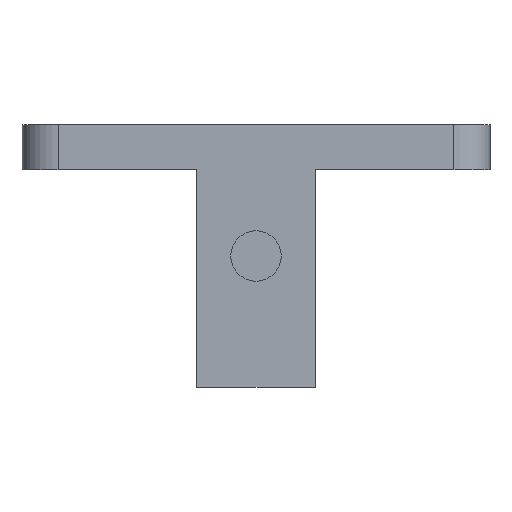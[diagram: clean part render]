
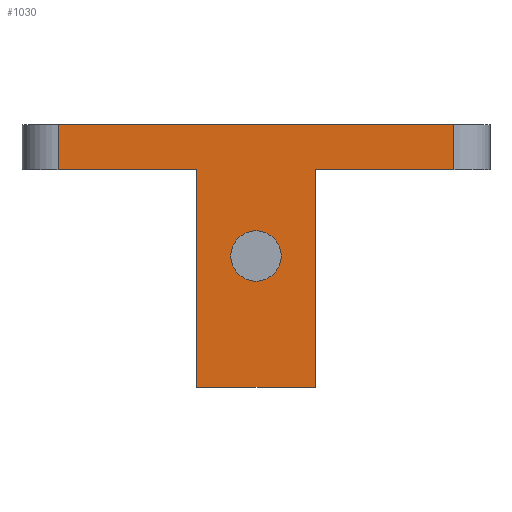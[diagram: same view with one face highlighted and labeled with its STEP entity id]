
A CAD part, front view. The second image highlights one B-rep face of the part: STEP entity #1030.
In plain terms, the highlighted planar face has unit normal (0, -1, 0).
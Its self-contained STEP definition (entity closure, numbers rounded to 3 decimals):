
#27=FACE_BOUND('',#374,.T.);
#70=LINE('',#1503,#198);
#78=LINE('',#1532,#206);
#86=LINE('',#1560,#214);
#95=LINE('',#1581,#223);
#96=LINE('',#1583,#224);
#97=LINE('',#1584,#225);
#98=LINE('',#1585,#226);
#99=LINE('',#1586,#227);
#198=VECTOR('',#1212,10.);
#206=VECTOR('',#1234,10.);
#214=VECTOR('',#1256,10.);
#223=VECTOR('',#1279,10.);
#224=VECTOR('',#1280,10.);
#225=VECTOR('',#1281,10.);
#226=VECTOR('',#1282,10.);
#227=VECTOR('',#1283,1000.);
#315=FACE_OUTER_BOUND('',#373,.T.);
#373=EDGE_LOOP('',(#791,#792,#793,#794,#795,#796,#797,#798));
#374=EDGE_LOOP('',(#799));
#429=CIRCLE('',#1104,1.4);
#462=VERTEX_POINT('',#1500);
#463=VERTEX_POINT('',#1502);
#475=VERTEX_POINT('',#1528);
#477=VERTEX_POINT('',#1531);
#486=VERTEX_POINT('',#1550);
#490=VERTEX_POINT('',#1558);
#495=VERTEX_POINT('',#1580);
#496=VERTEX_POINT('',#1582);
#497=VERTEX_POINT('',#1587);
#570=EDGE_CURVE('',#462,#463,#70,.T.);
#584=EDGE_CURVE('',#477,#475,#78,.T.);
#598=EDGE_CURVE('',#486,#490,#86,.T.);
#609=EDGE_CURVE('',#475,#495,#95,.T.);
#610=EDGE_CURVE('',#496,#495,#96,.T.);
#611=EDGE_CURVE('',#496,#486,#97,.T.);
#612=EDGE_CURVE('',#490,#463,#98,.T.);
#613=EDGE_CURVE('',#462,#477,#99,.T.);
#614=EDGE_CURVE('',#497,#497,#429,.T.);
#791=ORIENTED_EDGE('',*,*,#584,.T.);
#792=ORIENTED_EDGE('',*,*,#609,.T.);
#793=ORIENTED_EDGE('',*,*,#610,.F.);
#794=ORIENTED_EDGE('',*,*,#611,.T.);
#795=ORIENTED_EDGE('',*,*,#598,.T.);
#796=ORIENTED_EDGE('',*,*,#612,.T.);
#797=ORIENTED_EDGE('',*,*,#570,.F.);
#798=ORIENTED_EDGE('',*,*,#613,.T.);
#799=ORIENTED_EDGE('',*,*,#614,.T.);
#983=PLANE('',#1103);
#1030=ADVANCED_FACE('',(#315,#27),#983,.T.);
#1103=AXIS2_PLACEMENT_3D('',#1579,#1277,#1278);
#1104=AXIS2_PLACEMENT_3D('',#1588,#1284,#1285);
#1212=DIRECTION('',(1.,0.,0.));
#1234=DIRECTION('',(1.,0.,0.));
#1256=DIRECTION('',(1.,0.,0.));
#1277=DIRECTION('center_axis',(0.,-1.,0.));
#1278=DIRECTION('ref_axis',(1.,0.,0.));
#1279=DIRECTION('',(0.,0.,-1.));
#1280=DIRECTION('',(-1.,0.,0.));
#1281=DIRECTION('',(0.,0.,1.));
#1282=DIRECTION('',(0.,0.,1.));
#1283=DIRECTION('',(0.,0.,-1.));
#1284=DIRECTION('center_axis',(0.,1.,0.));
#1285=DIRECTION('ref_axis',(-1.,0.,0.));
#1500=CARTESIAN_POINT('',(-13.52,16.309,7.3));
#1502=CARTESIAN_POINT('',(8.48,16.309,7.3));
#1503=CARTESIAN_POINT('',(-13.52,16.309,7.3));
#1528=CARTESIAN_POINT('',(-5.82,16.309,4.8));
#1531=CARTESIAN_POINT('',(-13.52,16.309,4.8));
#1532=CARTESIAN_POINT('',(-12.826,16.309,4.8));
#1550=CARTESIAN_POINT('',(0.78,16.309,4.8));
#1558=CARTESIAN_POINT('',(8.48,16.309,4.8));
#1560=CARTESIAN_POINT('',(-5.215,16.309,4.8));
#1579=CARTESIAN_POINT('Origin',(-15.52,16.309,4.5));
#1580=CARTESIAN_POINT('',(-5.82,16.309,-7.3));
#1581=CARTESIAN_POINT('',(-5.82,16.309,-6.7));
#1582=CARTESIAN_POINT('',(0.78,16.309,-7.3));
#1583=CARTESIAN_POINT('',(0.78,16.309,-7.3));
#1584=CARTESIAN_POINT('',(0.78,16.309,4.5));
#1585=CARTESIAN_POINT('',(8.48,16.309,7.));
#1586=CARTESIAN_POINT('',(-13.52,16.309,4.5));
#1587=CARTESIAN_POINT('',(-1.12,16.309,0.));
#1588=CARTESIAN_POINT('Origin',(-2.52,16.309,0.));
